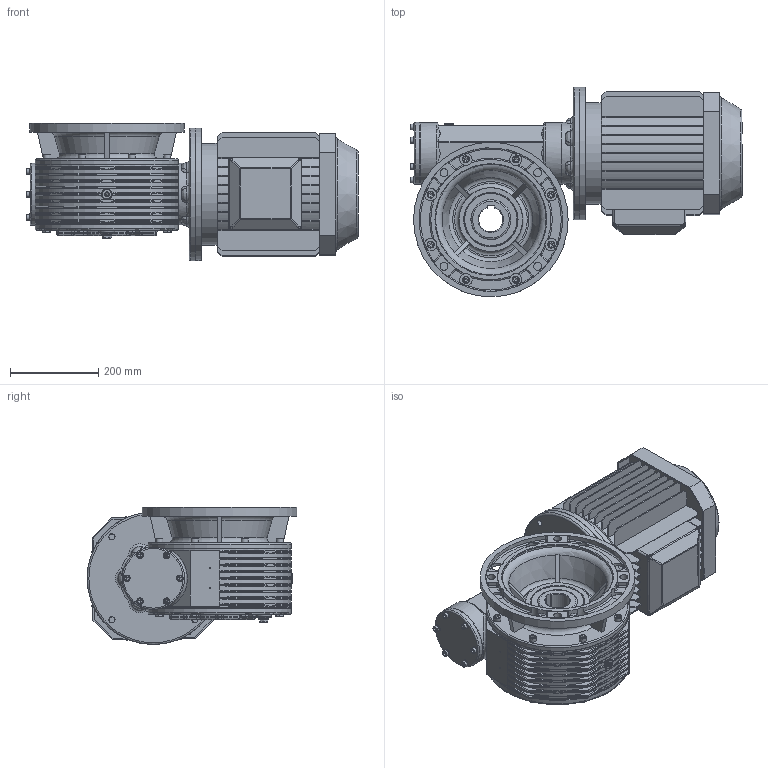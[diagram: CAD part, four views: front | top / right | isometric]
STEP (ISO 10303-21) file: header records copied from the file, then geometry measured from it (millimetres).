
FILE_DESCRIPTION((''),'2;1');
FILE_NAME('Y:\Archivi Inventor\Prog_01\GRAND_70\complessivi\Figurini\mrv70 sito\132s\MRV70_F2_132S_B5.stp','2013-02-08T15:10:44',('tech3'),(''),'Autodesk Inventor 2013','Autodesk Inventor 2013','');
FILE_SCHEMA(('AUTOMOTIVE_DESIGN { 1 0 10303 214 1 1 1 1 }'));
Length unit declared in the file: millimetre
Products named in the file (19): MRV70_132S_132M_B5; MRV70 figurino; 0107001-A0 figurino; 0107008.A0 figurino; 0107029; 0107009; 0107028; DIN 3760 AS AS - 90 x 120 x 12 - NBR; UNI 8839 A 8; Guarnizione 3_8 GAS; Tappo 3_8 GAS_esagn_incsst; DIN EN ISO 4762 M8 x 20; DIN EN 24017 M10 x 20; Tappo3_8 GAS; 0107002-A0-FIG; 0107003-A0-FIG; DIN EN ISO 4762 M10 x 20; 0107006; motori B5 132S
Assembly tree (54 placements, depth 3):
  MRV70_132S_132M_B5
    MRV70 figurino
      0107001-A0 figurino
      0107008.A0 figurino
      0107029  x2
      0107009
      0107028  x2
      DIN 3760 AS AS - 90 x 120 x 12 - NBR  x2
      UNI 8839 A 8  x6
      Guarnizione 3_8 GAS  x3
      Tappo 3_8 GAS_esagn_incsst  x2
      DIN EN ISO 4762 M8 x 20  x6
      DIN EN 24017 M10 x 20  x8
      Tappo3_8 GAS
      0107002-A0-FIG
      0107003-A0-FIG
      DIN EN ISO 4762 M10 x 20  x8
    0107006
    DIN EN ISO 4762 M8 x 20  x6
    motori B5 132S
Bounding box: 751.4 x 475 x 310.4 mm (x, y, z)
Volume: 36670162.7 mm3; surface area: 2739668.7 mm2
Topology: 53 solids, 53 shells, 2162 faces, 5291 edges, 3192 vertices
Faces by surface type: plane 887, cylinder 634, torus 253, bspline 221, cone 156, sphere 11
Full cylindrical faces by diameter (mm): 2 x2, 6.647 x12, 8 x14, 8.376 x16, 8.5 x24, 10 x16, 10.5 x16, 11 x16, 13 x12, 13.046 x1, 14 x4, 14.5 x4, 14.63 x8, 14.95 x3, 16 x8, 16.3 x3, 16.5 x2, 18 x4, 20 x6, 22 x6, 24 x10, 25 x1, 28 x8, 38 x1, 61 x1, 75 x1, 90 x4, 97.2 x2, 100 x6, 114 x2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
Entity records: 61591 total; most frequent: CARTESIAN_POINT 22724, DIRECTION 7971, ORIENTED_EDGE 7544, EDGE_CURVE 3772, AXIS2_PLACEMENT_3D 3240, VERTEX_POINT 2438, EDGE_LOOP 2096, CIRCLE 1693
